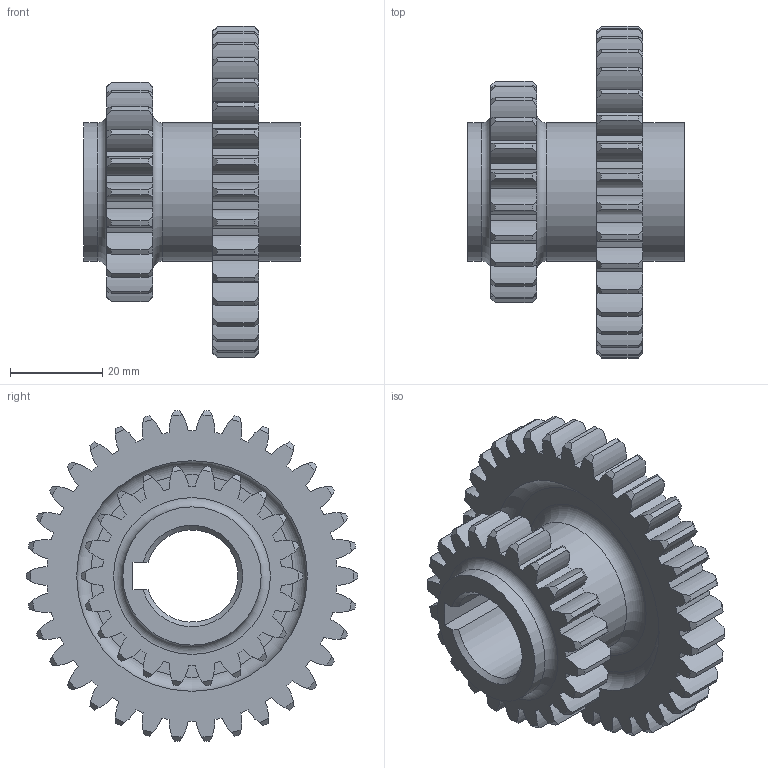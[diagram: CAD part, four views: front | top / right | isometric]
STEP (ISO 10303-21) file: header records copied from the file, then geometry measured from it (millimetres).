
FILE_DESCRIPTION(/* description */ (''),/* implementation_level */ '2;1');
FILE_NAME(/* name */ 'C:\Users\PC-1-3\Desktop\610605E1011\610605E1011-.stp',/* time_stamp */ '2021-06-19T11:31:12+09:00',/* author */ ('PC-1-3'),/* organization */ (''),/* preprocessor_version */ 'ST-DEVELOPER v16.1',/* originating_system */ 'Autodesk Inventor 2016',/* authorisation */ '');
FILE_SCHEMA (('AUTOMOTIVE_DESIGN { 1 0 10303 214 3 1 1 }'));
Length unit declared in the file: millimetre
Products named in the file (1): 610605E1011-스퍼기어
Bounding box: 47 x 72 x 71.79 mm (x, y, z)
Volume: 47851.1 mm3; surface area: 21342.7 mm2
Topology: 1 solids, 1 shells, 359 faces, 1049 edges, 698 vertices
Faces by surface type: cylinder 228, cone 114, plane 11, torus 6
Full cylindrical faces by diameter (mm): 30 x3
Entity records: 12412 total; most frequent: CARTESIAN_POINT 2778, DIRECTION 2110, ORIENTED_EDGE 2080, EDGE_CURVE 1040, AXIS2_PLACEMENT_3D 938, VERTEX_POINT 698, CIRCLE 578, EDGE_LOOP 376
